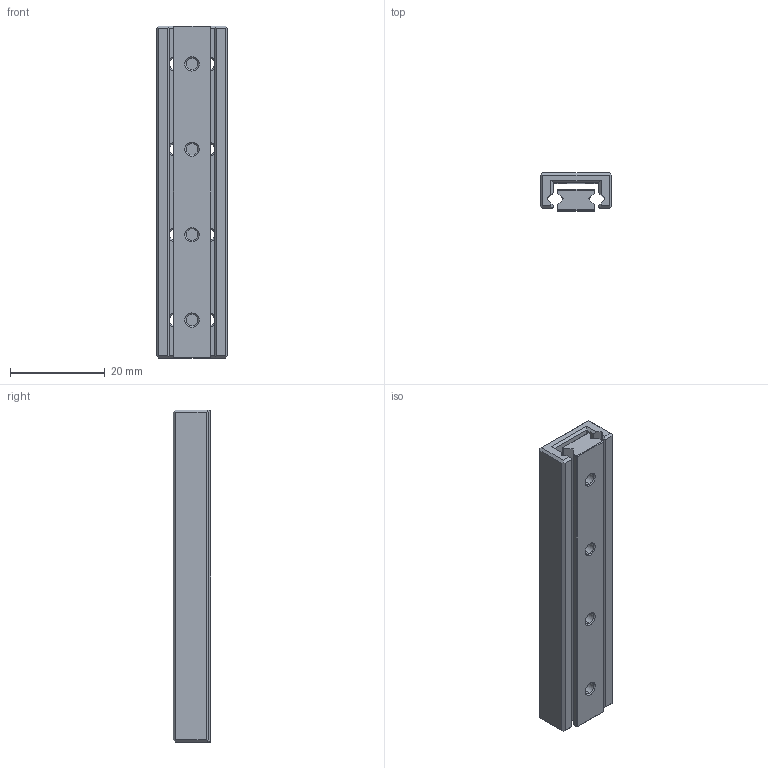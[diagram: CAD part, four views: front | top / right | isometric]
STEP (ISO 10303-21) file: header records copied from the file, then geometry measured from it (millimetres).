
FILE_DESCRIPTION (( 'STEP AP214' ), '1' );
FILE_NAME ('PMM 2-70.STEP', '2012-03-02T11:43:13', ( '' ), ( '' ), 'SwSTEP 2.0', 'SolidWorks 2011', '' );
FILE_SCHEMA (( 'AUTOMOTIVE_DESIGN' ));
Length unit declared in the file: millimetre
Products named in the file (1): PMM 2-70
Bounding box: 15 x 8 x 70 mm (x, y, z)
Volume: 6038.7 mm3; surface area: 6110.1 mm2
Topology: 2 solids, 2 shells, 292 faces, 820 edges, 540 vertices
Faces by surface type: plane 174, cone 48, bspline 43, cylinder 27
Entity records: 13329 total; most frequent: CARTESIAN_POINT 4320, ORIENTED_EDGE 1640, DIRECTION 1368, EDGE_CURVE 820, LINE 584, VECTOR 584, VERTEX_POINT 540, AXIS2_PLACEMENT_3D 392
